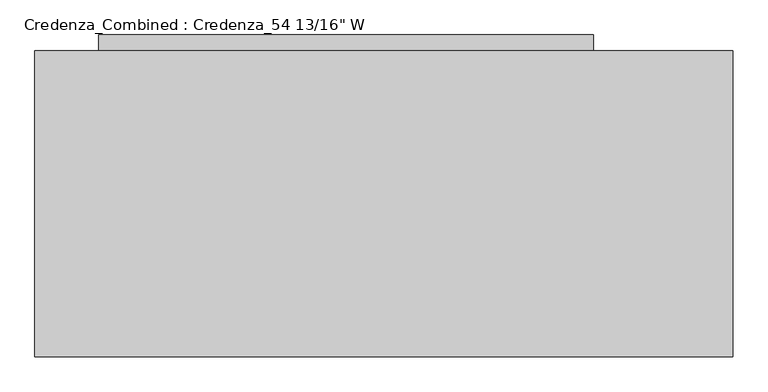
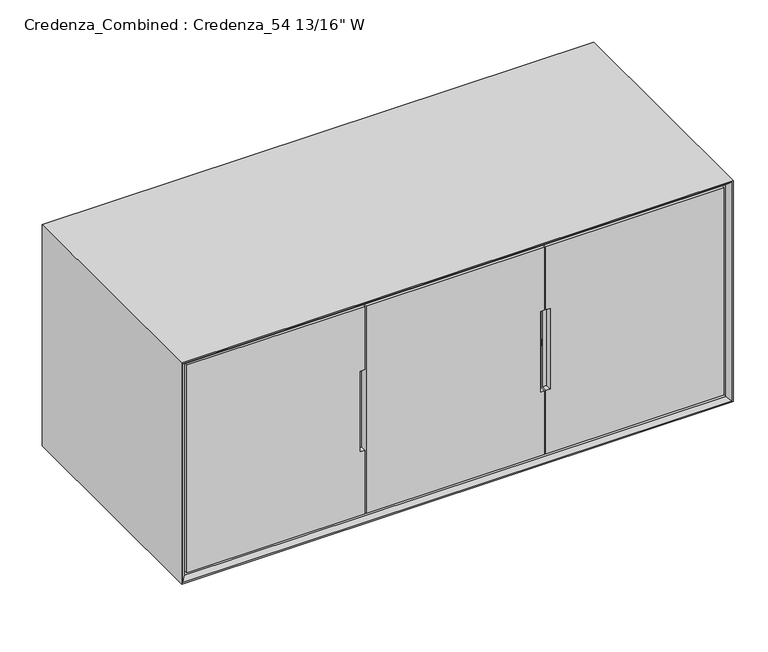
"""IFC4 building model written with IfcOpenShell, lengths in millimetres: furniture geometry."""

from ifc_helpers import new_model, si_unit, frame, origin, origin_with_axes, place, context, project, spatial, polyline, outline, extrude, faceted_brep, source, transform, mapped, element, save


def furniture_59a5bb71(model_context):
    return source(origin(), model_context, "Body", "SolidModel", [
        faceted_brep([(921.54375, 28.575, 659.60625), (471.4875, 28.575, 659.60625), (471.4875, 9.525, 659.60625), (921.54375, 9.525, 659.60625), (921.54375, 28.575, 105.56875), (921.54375, 9.525, 105.56875), (471.4875, 9.525, 105.56875), (471.4875, 28.575, 105.56875), (910.43125, 25.4, 490.5375), (910.43125, 25.4, 274.6375), (921.54375, 25.4, 274.6375), (921.54375, 25.4, 490.5375), (921.54375, 9.525, 274.6375), (910.43125, 9.525, 274.6375), (910.43125, 9.525, 490.5375), (921.54375, 9.525, 490.5375)], [[[0, 1, 2, 3]], [[4, 5, 6, 7]], [[1, 0, 4, 7]], [[2, 1, 7, 6]], [[8, 9, 10, 11]], [[3, 2, 6, 5, 12, 13, 14, 15]], [[0, 3, 15, 11, 10, 12, 5, 4]], [[14, 8, 11, 15]], [[9, 8, 14, 13]], [[9, 13, 12, 10]]]),
        faceted_brep([(924.71875, 9.525, 659.60625), (1374.775, 9.525, 659.60625), (1374.775, 28.575, 659.60625), (924.71875, 28.575, 659.60625), (924.71875, 9.525, 105.56875), (924.71875, 28.575, 105.56875), (1374.775, 28.575, 105.56875), (1374.775, 9.525, 105.56875), (924.71875, 9.525, 490.5375), (935.83125, 9.525, 490.5375), (935.83125, 9.525, 274.6375), (924.71875, 9.525, 274.6375), (935.83125, 25.4, 274.6375), (935.83125, 25.4, 490.5375), (924.71875, 25.4, 490.5375), (924.71875, 25.4, 274.6375)], [[[0, 1, 2, 3]], [[4, 5, 6, 7]], [[1, 0, 8, 9, 10, 11, 4, 7]], [[2, 1, 7, 6]], [[12, 13, 14, 15]], [[3, 2, 6, 5]], [[0, 3, 5, 4, 11, 15, 14, 8]], [[13, 9, 8, 14]], [[10, 12, 15, 11]], [[13, 12, 10, 9]]]),
        extrude(outline(polyline([(1374.775, 609.6), (1374.775, 28.575), (471.4875, 28.575), (471.4875, 609.6), (1374.775, 609.6)])), frame((0.0, 0.0, 382.5875), z_axis=(0.0, 0.0, 1.0), x_axis=(1.0, 0.0, 0.0)), (0.0, 0.0, 1.0), 19.05),
        extrude(outline(polyline([(1114.425, 609.6), (1114.425, 241.3), (127.0, 241.3), (127.0, 609.6), (1114.425, 609.6)])), origin_with_axes(), (0.0, 0.0, 1.0), 87.3125),
        extrude(outline(polyline([(1114.425, 641.35), (1114.425, 609.6), (127.0, 609.6), (127.0, 641.35), (1114.425, 641.35)])), origin_with_axes(), (0.0, 0.0, 1.0), 647.7),
        extrude(outline(polyline([(665.1625, 1379.5375), (665.1625, 12.7), (100.0125, 12.7), (100.0125, 1379.5375), (665.1625, 1379.5375)]), holes=[polyline([(646.1125, 31.75), (646.1125, 1360.4875), (119.0625, 1360.4875), (119.0625, 31.75), (646.1125, 31.75)])]), frame((0.0, 31.75, 0.0), z_axis=(0.0, 1.0, 0.0), x_axis=(0.0, 0.0, 1.0)), (0.0, 0.0, 1.0), 577.85),
        faceted_brep([(1379.5375, 9.525, 665.1625), (1379.5375, 609.6, 665.1625), (1379.5375, 609.6, 100.0125), (1379.5375, 9.525, 100.0125), (1389.0625, 0.0, 674.6875), (1389.0625, 0.0, 90.4875), (1392.2375, 609.6, 677.8625), (1392.2375, 0.0, 677.8625), (1392.2375, 0.0, 87.3125), (1392.2375, 609.6, 87.3125), (12.7, 609.6, 100.0125), (12.7, 9.525, 100.0125), (3.175, 0.0, 90.4875), (0.0, 0.0, 87.3125), (0.0, 609.6, 87.3125), (12.7, 609.6, 665.1625), (12.7, 9.525, 665.1625), (3.175, 0.0, 674.6875), (0.0, 0.0, 677.8625), (0.0, 609.6, 677.8625)], [[[0, 1, 2, 3]], [[4, 0, 3, 5]], [[6, 7, 8, 9]], [[3, 2, 10, 11]], [[5, 3, 11, 12]], [[9, 8, 13, 14]], [[11, 10, 15, 16]], [[12, 11, 16, 17]], [[14, 13, 18, 19]], [[9, 14, 19, 6], [1, 15, 10, 2]], [[16, 15, 1, 0]], [[17, 16, 0, 4]], [[7, 18, 13, 8], [5, 12, 17, 4]], [[19, 18, 7, 6]]]),
        faceted_brep([(468.3125, 28.575, 659.60625), (19.05, 28.575, 659.60625), (19.05, 9.525, 659.60625), (468.3125, 9.525, 659.60625), (468.3125, 28.575, 105.56875), (468.3125, 9.525, 105.56875), (19.05, 9.525, 105.56875), (19.05, 28.575, 105.56875), (468.3125, 9.525, 274.6375), (455.6125, 9.525, 274.6375), (455.6125, 9.525, 490.5375), (468.3125, 9.525, 490.5375), (468.3125, 25.4, 490.5375), (468.3125, 25.4, 274.6375), (455.6125, 25.4, 490.5375), (455.6125, 25.4, 274.6375)], [[[0, 1, 2, 3]], [[4, 5, 6, 7]], [[1, 0, 4, 7]], [[2, 1, 7, 6]], [[3, 2, 6, 5, 8, 9, 10, 11]], [[0, 3, 11, 12, 13, 8, 5, 4]], [[12, 14, 15, 13]], [[14, 12, 11, 10]], [[15, 14, 10, 9]], [[13, 15, 9, 8]]]),
        extrude(outline(polyline([(468.3125, 609.6), (468.3125, 28.575), (19.05, 28.575), (19.05, 609.6), (468.3125, 609.6)])), frame((0.0, 0.0, 382.5875), z_axis=(0.0, 0.0, 1.0), x_axis=(1.0, 0.0, 0.0)), (0.0, 0.0, 1.0), 19.05),
    ])


if __name__ == "__main__":
    model = new_model("IFC4")
    model_context = context("Model", 3, world=origin())
    ifc_project = project(units=[si_unit("LENGTHUNIT", "METRE", prefix="MILLI")], contexts=[model_context])
    site = spatial("IfcSite", under=ifc_project)
    building = spatial("IfcBuilding", under=site)
    placement = place(None, origin())
    furniture_shape = furniture_59a5bb71(model_context)
    element("IfcFurniture", 1, ObjectType="Credenza_Combined : Credenza_54 13/16\" W", at=placement, inside=building, context=model_context, shape_type="MappedRepresentation", body=[
        mapped(furniture_shape, transform((0.0, 0.0, 0.0), x_axis=(1.0, 0.0, 0.0), y_axis=(0.0, 1.0, 0.0), z_axis=(0.0, 0.0, 1.0))),
    ])
    save(model, "model.ifc")
